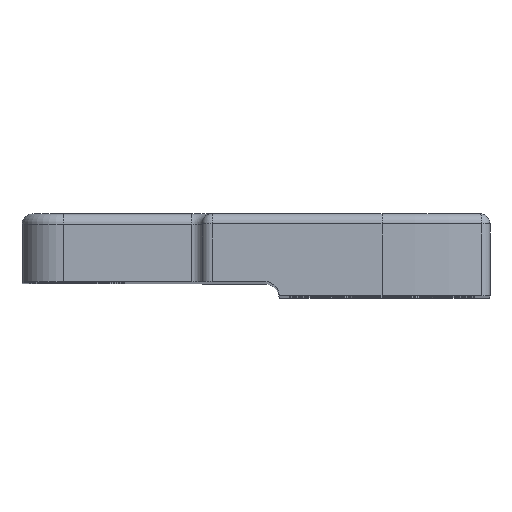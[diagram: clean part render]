
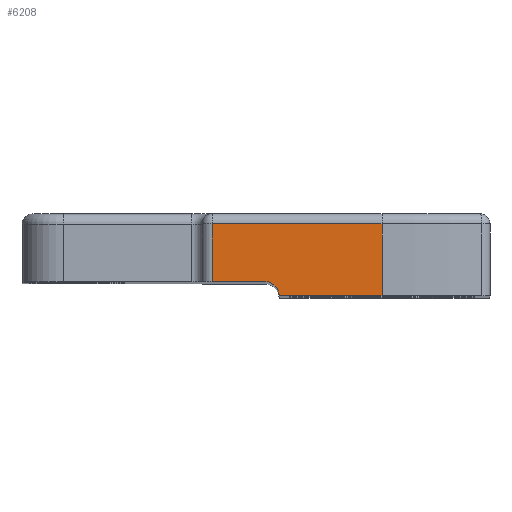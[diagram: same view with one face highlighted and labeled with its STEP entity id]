
A CAD part, top view. The second image highlights one B-rep face of the part: STEP entity #6208.
In plain terms, the highlighted planar face has unit normal (0, 0, 1).
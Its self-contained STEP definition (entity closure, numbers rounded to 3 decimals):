
#1565 = CARTESIAN_POINT ( 'NONE',  ( -16.5, 1.4, 119. ) ) ;
#1692 = VECTOR ( 'NONE', #1847, 1000. ) ;
#1696 = VECTOR ( 'NONE', #1857, 1000. ) ;
#1698 = CIRCLE ( 'NONE', #1701, 1.4 ) ;
#1699 = VECTOR ( 'NONE', #1859, 1000. ) ;
#1701 = AXIS2_PLACEMENT_3D ( 'NONE', #1861, #1862, #1863 ) ;
#1769 = VECTOR ( 'NONE', #2007, 1000. ) ;
#1845 = LINE ( 'NONE', #1846, #1692 ) ;
#1846 = CARTESIAN_POINT ( 'NONE',  ( -16.5, 8., 119. ) ) ;
#1847 = DIRECTION ( 'NONE',  ( 0., -1., 0. ) ) ;
#1849 = LINE ( 'NONE', #1858, #1699 ) ;
#1854 = LINE ( 'NONE', #1856, #1696 ) ;
#1856 = CARTESIAN_POINT ( 'NONE',  ( 0., 8., 119. ) ) ;
#1857 = DIRECTION ( 'NONE',  ( 0., -1., 0. ) ) ;
#1858 = CARTESIAN_POINT ( 'NONE',  ( 0., 7., 119. ) ) ;
#1859 = DIRECTION ( 'NONE',  ( -1., 0., 0. ) ) ;
#1861 = CARTESIAN_POINT ( 'NONE',  ( -11.4, 0., 119. ) ) ;
#1862 = DIRECTION ( 'NONE',  ( 0., 0., -1. ) ) ;
#1863 = DIRECTION ( 'NONE',  ( -1., 0., 0. ) ) ;
#1999 = LINE ( 'NONE', #2000, #1769 ) ;
#2000 = CARTESIAN_POINT ( 'NONE',  ( 0., 0., 119. ) ) ;
#2007 = DIRECTION ( 'NONE',  ( 1., 0., 0. ) ) ;
#2151 = VERTEX_POINT ( 'NONE', #6510 ) ;
#2199 = VERTEX_POINT ( 'NONE', #6557 ) ;
#2201 = VERTEX_POINT ( 'NONE', #6559 ) ;
#2382 = ORIENTED_EDGE ( 'NONE', *, *, #7949, .F. ) ;
#2383 = ORIENTED_EDGE ( 'NONE', *, *, #7950, .T. ) ;
#2384 = ORIENTED_EDGE ( 'NONE', *, *, #7946, .T. ) ;
#2385 = ORIENTED_EDGE ( 'NONE', *, *, #4853, .T. ) ;
#2386 = ORIENTED_EDGE ( 'NONE', *, *, #7951, .T. ) ;
#2387 = ORIENTED_EDGE ( 'NONE', *, *, #8000, .T. ) ;
#2847 = PLANE ( 'NONE',  #9211 ) ;
#2848 = CARTESIAN_POINT ( 'NONE',  ( 0., 8., 119. ) ) ;
#2849 = DIRECTION ( 'NONE',  ( 0., 0., -1. ) ) ;
#2850 = DIRECTION ( 'NONE',  ( -1., 0., 0. ) ) ;
#3167 = CARTESIAN_POINT ( 'NONE',  ( -16.5, 7., 119. ) ) ;
#3175 = CARTESIAN_POINT ( 'NONE',  ( 0., 7., 119. ) ) ;
#4284 = LINE ( 'NONE', #4286, #5852 ) ;
#4286 = CARTESIAN_POINT ( 'NONE',  ( 0., 1.4, 119. ) ) ;
#4287 = DIRECTION ( 'NONE',  ( 1., 0., 0. ) ) ;
#4853 = EDGE_CURVE ( 'NONE', #7479, #2151, #4284, .T. ) ;
#5852 = VECTOR ( 'NONE', #4287, 1000. ) ;
#5966 = EDGE_LOOP ( 'NONE', ( #2382, #2383, #2384, #2385, #2386, #2387 ) ) ;
#6208 = ADVANCED_FACE ( 'NONE', ( #8554 ), #2847, .F. ) ;
#6408 = VERTEX_POINT ( 'NONE', #3167 ) ;
#6416 = VERTEX_POINT ( 'NONE', #3175 ) ;
#6510 = CARTESIAN_POINT ( 'NONE',  ( -11.4, 1.4, 119. ) ) ;
#6557 = CARTESIAN_POINT ( 'NONE',  ( 0., 0., 119. ) ) ;
#6559 = CARTESIAN_POINT ( 'NONE',  ( -10., 0., 119. ) ) ;
#7479 = VERTEX_POINT ( 'NONE', #1565 ) ;
#7946 = EDGE_CURVE ( 'NONE', #6408, #7479, #1845, .T. ) ;
#7949 = EDGE_CURVE ( 'NONE', #6416, #2199, #1854, .T. ) ;
#7950 = EDGE_CURVE ( 'NONE', #6416, #6408, #1849, .T. ) ;
#7951 = EDGE_CURVE ( 'NONE', #2151, #2201, #1698, .T. ) ;
#8000 = EDGE_CURVE ( 'NONE', #2201, #2199, #1999, .T. ) ;
#8554 = FACE_OUTER_BOUND ( 'NONE', #5966, .T. ) ;
#9211 = AXIS2_PLACEMENT_3D ( 'NONE', #2848, #2849, #2850 ) ;
